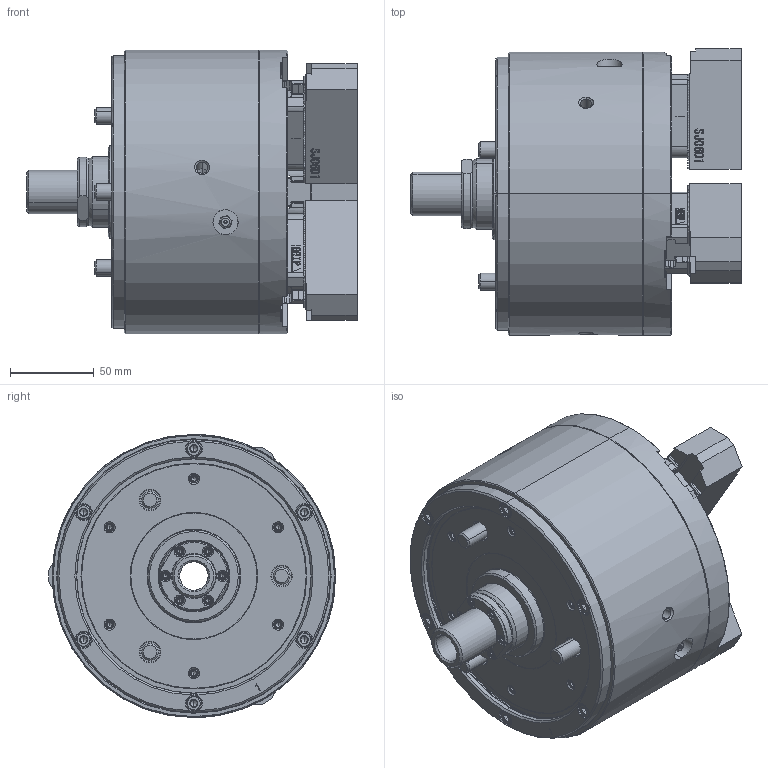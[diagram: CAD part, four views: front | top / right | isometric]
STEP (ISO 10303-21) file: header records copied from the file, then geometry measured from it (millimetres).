
FILE_DESCRIPTION (( 'STEP AP214' ), '1' );
FILE_NAME ('DL206_UC_ID.STEP', '2022-09-07T05:55:54', ( '' ), ( '' ), 'SwSTEP 2.0', 'SolidWorks 2020', '' );
FILE_SCHEMA (( 'AUTOMOTIVE_DESIGN' ));
Length unit declared in the file: millimetre
Products named in the file (5): 結合DL206_UC_ID^DL206; 61P385747; 0030110025; 61P456464; DL206_UC_ID
Assembly tree (13 placements, depth 2):
  DL206_UC_ID
    61P385747  x3
    61P456464  x3
    0030110025  x6
    結合DL206_UC_ID^DL206
Bounding box: 197 x 171.24 x 169 mm (x, y, z)
Volume: 2459940.7 mm3; surface area: 244810.2 mm2
Topology: 13 solids, 51 shells, 5971 faces, 16377 edges, 10677 vertices
Faces by surface type: plane 3540, bspline 1071, cylinder 707, cone 621, torus 28, sphere 4
Entity records: 192264 total; most frequent: CARTESIAN_POINT 73114, ORIENTED_EDGE 27232, DIRECTION 20327, EDGE_CURVE 13616, VECTOR 9013, LINE 9013, VERTEX_POINT 8955, AXIS2_PLACEMENT_3D 5657
